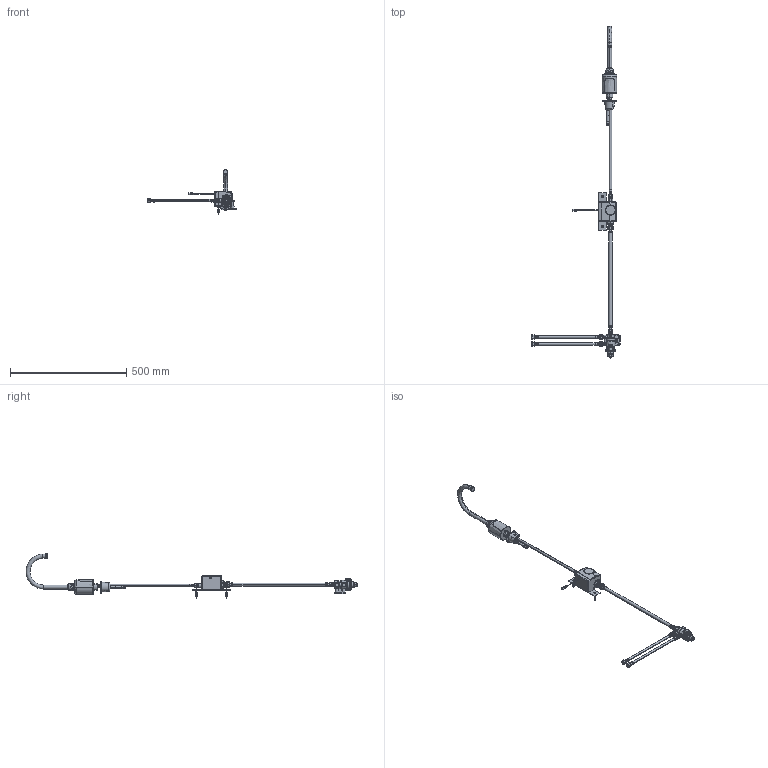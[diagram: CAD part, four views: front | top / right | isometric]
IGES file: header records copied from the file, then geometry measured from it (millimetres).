
Start section:  PTC IGES file: 116-975-ab-1_sw0001.igs
Global section: file name: 116-975-ab-1_sw0001.igs; native system: Pro/ENGINEER by Parametric Technology Corporation; preprocessor: 2011330; author: jrodriguez; organization: Unknown; date: 20120229.113401; units: inch
Bounding box: 381.13 x 1429.2 x 193.58 mm (x, y, z)
Surface area: 275635.2 mm2 (no closed solid volume)
Topology: 0 solids, 0 shells, 1654 faces, 15250 edges, 21257 vertices
Faces by surface type: revolution 1030, bspline 624
